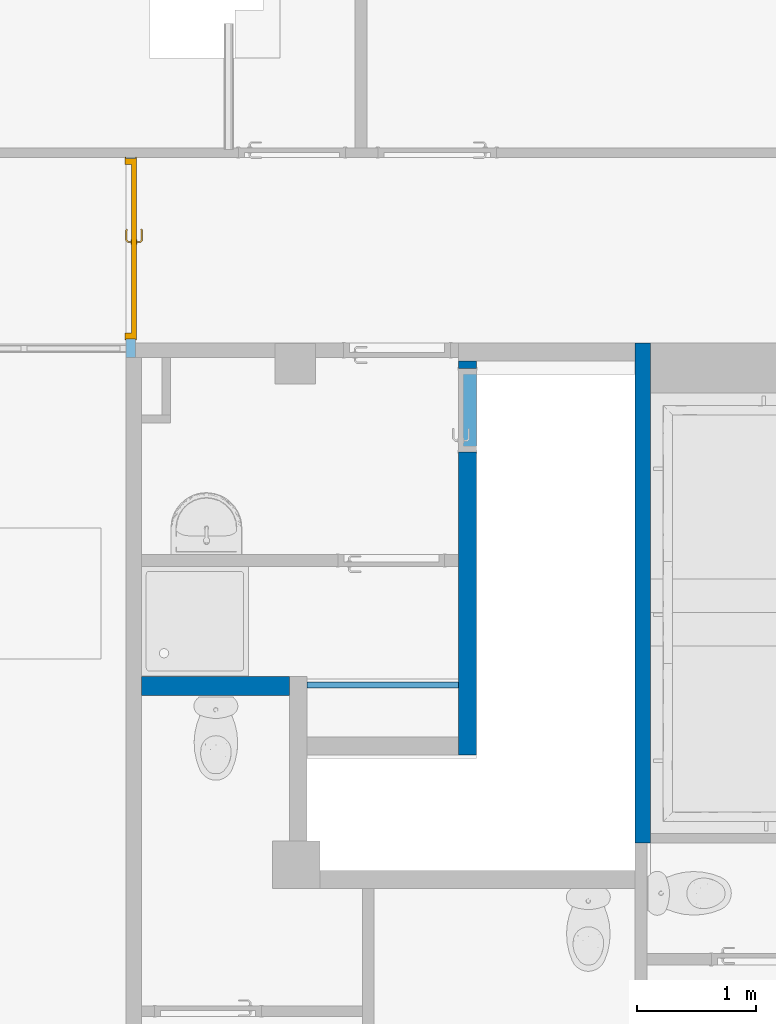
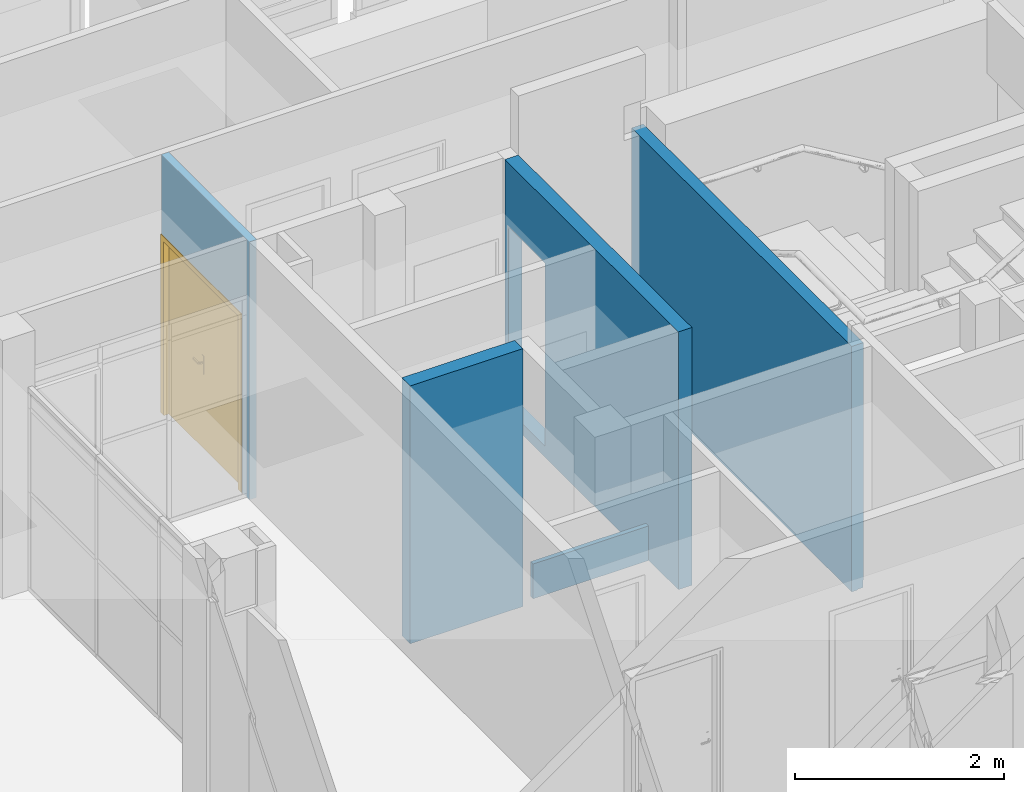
# One storey, part 75 of 97: 4 walls, 1 door, 2 openings, plus 1 element that does not belong to this part.
"""IFC4 building model written with IfcOpenShell, lengths in metres."""

from ifc_helpers import new_model, entity, si_unit, converted_unit, derived_unit, direction, frame, origin, place, context, subcontext, project, spatial, indexed_curve, outline, extrude, polygons, source, transform, mapped, material, material_list, layer, layer_set, constituent, constituent_set, type_object, type_shapes, element, fill, save


model = new_model("IFC4")

# Units and contexts
model_context = context("Model", 3, precision=1e-05, world=origin(), true_north=direction((6.12303176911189e-17, 1.0)))
body_context = subcontext(model_context, "Body", "Model", "MODEL_VIEW")
ifc_project = project(units=[si_unit("LENGTHUNIT", "METRE"), si_unit("AREAUNIT", "SQUARE_METRE"), si_unit("VOLUMEUNIT", "CUBIC_METRE"), converted_unit("PLANEANGLEUNIT", "DEGREE", entity("IfcRatioMeasure", 0.0174532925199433), si_unit("PLANEANGLEUNIT", "RADIAN"), dimensions=[0, 0, 0, 0, 0, 0, 0]), si_unit("MASSUNIT", "GRAM", prefix="KILO"), derived_unit("MASSDENSITYUNIT", [(si_unit("MASSUNIT", "GRAM", prefix="KILO"), 1), (si_unit("LENGTHUNIT", "METRE"), -3)]), derived_unit("MOMENTOFINERTIAUNIT", [(si_unit("LENGTHUNIT", "METRE"), 4)]), si_unit("TIMEUNIT", "SECOND"), si_unit("FREQUENCYUNIT", "HERTZ"), si_unit("THERMODYNAMICTEMPERATUREUNIT", "DEGREE_CELSIUS"), derived_unit("THERMALTRANSMITTANCEUNIT", [(si_unit("MASSUNIT", "GRAM", prefix="KILO"), 1), (si_unit("THERMODYNAMICTEMPERATUREUNIT", "KELVIN"), -1), (si_unit("TIMEUNIT", "SECOND"), -3)]), derived_unit("VOLUMETRICFLOWRATEUNIT", [(si_unit("LENGTHUNIT", "METRE"), 3), (si_unit("TIMEUNIT", "SECOND"), -1)]), si_unit("ELECTRICCURRENTUNIT", "AMPERE"), si_unit("ELECTRICVOLTAGEUNIT", "VOLT"), si_unit("POWERUNIT", "WATT"), si_unit("FORCEUNIT", "NEWTON", prefix="KILO"), si_unit("ILLUMINANCEUNIT", "LUX"), si_unit("LUMINOUSFLUXUNIT", "LUMEN"), si_unit("LUMINOUSINTENSITYUNIT", "CANDELA"), derived_unit("USERDEFINED", [(si_unit("MASSUNIT", "GRAM", prefix="KILO"), -1), (si_unit("LENGTHUNIT", "METRE"), -2), (si_unit("TIMEUNIT", "SECOND"), 3), (si_unit("LUMINOUSFLUXUNIT", "LUMEN"), 1)]), derived_unit("LINEARVELOCITYUNIT", [(si_unit("LENGTHUNIT", "METRE"), 1), (si_unit("TIMEUNIT", "SECOND"), -1)]), si_unit("PRESSUREUNIT", "PASCAL"), derived_unit("USERDEFINED", [(si_unit("LENGTHUNIT", "METRE"), -2), (si_unit("MASSUNIT", "GRAM", prefix="KILO"), 1), (si_unit("TIMEUNIT", "SECOND"), -2)]), derived_unit("LINEARFORCEUNIT", [(si_unit("MASSUNIT", "GRAM", prefix="KILO"), 1), (si_unit("LENGTHUNIT", "METRE"), 1), (si_unit("TIMEUNIT", "SECOND"), -2), (si_unit("LENGTHUNIT", "METRE"), -1)]), derived_unit("PLANARFORCEUNIT", [(si_unit("MASSUNIT", "GRAM", prefix="KILO"), 1), (si_unit("LENGTHUNIT", "METRE"), 1), (si_unit("TIMEUNIT", "SECOND"), -2), (si_unit("LENGTHUNIT", "METRE"), -2)])], contexts=[model_context])

# Site, building, storey
site_placement = place(None, origin())
site = spatial("IfcSite", under=ifc_project, at=site_placement, Name="Default", CompositionType="ELEMENT")
building_placement = place(site_placement, origin())
building = spatial("IfcBuilding", under=site, at=building_placement, Name="HOTEL CONSULAIRE BOULOGNE SUR MER", CompositionType="ELEMENT")
storey_placement = place(building_placement, frame((0.0, 0.0, 3.62152697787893)))
storey = spatial("IfcBuildingStorey", under=building, at=storey_placement, Name="Niveau 1", CompositionType="ELEMENT", Elevation=3.62152697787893)

# Walls
ifc_material_1 = material(Name="Mur par défaut", Category="Divers")
ifc_layer_1 = layer(ifc_material_1, 0.16, Name="Mur par défaut", Category="Divers")
ifc_layer_set_1 = layer_set([ifc_layer_1], Name="Mur de base:Générique - Int.160")
wall_type_1 = type_object("IfcWallType", Name="Mur de base:Générique - Int.160", PredefinedType="NOTDEFINED", material=ifc_layer_set_1)
wall_1_placement = place(storey_placement, frame((-2.53052868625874, -18.3229886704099, 0.0)))
element("IfcWall", 1, at=wall_1_placement, inside=storey, type_object=wall_type_1, material=ifc_layer_set_1, Name="Mur de base:Générique - Int.160", ObjectType="Mur de base:Générique - Int.160", PredefinedType="NOTDEFINED", context=body_context, shape_type="Tessellation", body=[
    polygons([(1.24516374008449, -0.0800000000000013, 3.01021454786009), (5.96853891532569e-16, -0.0800000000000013, 3.01021454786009), (5.54203268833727e-17, -0.0800000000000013, 0.0), (1.24516374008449, -0.0800000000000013, 0.0), (2.67822987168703e-17, 0.0799999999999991, 3.01021454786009), (1.24516374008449, 0.0799999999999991, 3.01021454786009), (1.24516374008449, 0.0799999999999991, 0.0), (2.67822987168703e-17, 0.0799999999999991, 0.0)], [[[2, 3, 4, 1]], [[6, 7, 8, 5]], [[2, 1, 6, 5]], [[5, 8, 3, 2]], [[1, 4, 7, 6]], [[7, 4, 3, 8]]], closed=True),
])
ifc_layer_2 = layer(ifc_material_1, 0.13, Name="Mur par défaut", Category="Divers")
ifc_layer_set_2 = layer_set([ifc_layer_2], Name="Mur de base:Générique - Int. 130 mm")
wall_type_2 = type_object("IfcWallType", Name="Mur de base:Générique - Int. 130 mm", PredefinedType="NOTDEFINED", material=ifc_layer_set_2)
wall_2_placement = place(storey_placement, frame((1.69247131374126, -19.6449143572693, -0.0968216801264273), z_axis=(0.0, 0.0, 1.0), x_axis=(0.0, 1.0, 0.0)))
element("IfcWall", 2, at=wall_2_placement, inside=storey, type_object=wall_type_2, material=ifc_layer_set_2, Name="Mur de base:Générique - Int. 130 mm", ObjectType="Mur de base:Générique - Int. 130 mm", PredefinedType="NOTDEFINED", context=body_context, shape_type="Tessellation", body=[
    polygons([(4.20967231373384, -0.0650000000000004, 0.0968216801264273), (3.94467231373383, -0.0650000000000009, 0.0968216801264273), (3.94467231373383, 0.0649999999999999, 0.0968216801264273), (4.05967231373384, 0.0650000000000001, 0.0968216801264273), (4.20967231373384, 0.0650000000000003, 0.0968216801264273), (4.20967231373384, -0.0649999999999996, 2.86503622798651), (4.15203615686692, -0.0649999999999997, 2.86503622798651), (3.78967231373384, -0.0649999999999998, 2.86503622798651), (0.0799999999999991, -0.0649999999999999, 2.86503622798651), (0.0, -0.0649999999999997, 2.86503622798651), (0.0, -0.0649999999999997, 0.0968216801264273), (0.00999999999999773, -0.0649999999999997, 0.0968216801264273), (0.00999999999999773, -0.0649999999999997, 5.41433564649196e-16), (3.94467231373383, -0.0649999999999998, 5.41433564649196e-16), (0.0, 0.0650000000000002, 2.86503622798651), (0.0799999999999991, 0.0650000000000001, 2.86503622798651), (4.05967231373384, 0.0650000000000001, 2.86503622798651), (4.20967231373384, 0.0650000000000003, 2.86503622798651), (3.94467231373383, 0.0650000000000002, 5.41433564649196e-16), (0.0, 0.0650000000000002, 5.41433564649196e-16), (0.0, 0.0650000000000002, 0.0618216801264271), (4.20967231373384, -3.41926328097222e-16, 2.86503622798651), (0.00999999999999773, -2.31463596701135e-15, 0.0968216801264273), (4.33146851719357e-15, -0.0349999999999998, 0.0968216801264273), (0.0, -2.33029170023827e-15, 0.0968216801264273), (0.0, -2.33029170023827e-15, 0.0618216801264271), (0.0, -2.33029170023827e-15, 5.41433564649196e-16), (0.00999999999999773, -2.31463596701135e-15, 5.41433564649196e-16)], [[[4, 5, 1, 2, 3]], [[23, 12, 11, 24, 25]], [[20, 19, 14, 13, 28, 27]], [[10, 11, 12, 13, 14, 2, 1, 6, 7, 8, 9]], [[26, 27, 28, 23, 25]], [[5, 4, 3, 19, 20, 21, 15, 16, 17, 18]], [[8, 7, 6, 22, 18, 17, 16, 15, 10, 9]], [[3, 2, 14, 19]], [[6, 1, 5, 18, 22]], [[25, 24, 11, 10, 15, 21, 20, 27, 26]], [[23, 28, 13, 12]]], closed=True),
])

# Wall, opening
ifc_layer_3 = layer(ifc_material_1, 0.15, Name="Mur par défaut", Category="Divers")
ifc_layer_set_3 = layer_set([ifc_layer_3], Name="Mur de base:Générique - Int. 150 mm")
wall_type_3 = type_object("IfcWallType", Name="Mur de base:Générique - Int. 150 mm", PredefinedType="NOTDEFINED", material=ifc_layer_set_3)
wall_3_placement = place(storey_placement, frame((0.216635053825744, -18.9046212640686, 0.0), z_axis=(0.0, 0.0, 1.0), x_axis=(0.0, 1.0, 0.0)))
wall_3 = element("IfcWall", 3, at=wall_3_placement, inside=storey, type_object=wall_type_3, material=ifc_layer_set_3, Name="Mur de base:Générique - Int. 150 mm", ObjectType="Mur de base:Générique - Int. 150 mm", PredefinedType="NOTDEFINED", context=body_context, shape_type="Tessellation", body=[
    polygons([(3.31937922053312, -0.075, 3.01021454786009), (0.0, -0.075, 3.01021454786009), (0.0, -0.075, 0.0), (3.2043792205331, -0.075, 0.0), (3.31937922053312, -0.075, 0.0), (3.2533792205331, -0.075, 2.26500000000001), (3.2533792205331, -0.075, 0.13), (2.5533792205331, -0.075, 0.13), (2.5533792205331, -0.075, 2.26500000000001), (0.0, 0.075, 3.01021454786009), (0.150000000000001, 0.075, 3.01021454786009), (1.58683564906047, 0.075, 3.01021454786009), (1.68683564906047, 0.075, 3.01021454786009), (3.31937922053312, 0.075, 3.01021454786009), (3.31937922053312, 0.075, 0.0), (1.68683564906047, 0.075, 0.0), (1.58683564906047, 0.075, 0.0), (0.150000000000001, 0.075, 0.0), (0.0, 0.075, 0.0), (3.2533792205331, 0.075, 0.13), (3.2533792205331, 0.075, 2.26500000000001), (2.5533792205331, 0.075, 2.26500000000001), (2.5533792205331, 0.075, 0.13)], [[[3, 4, 5, 1, 2], [9, 6, 7, 8]], [[15, 16, 17, 18, 19, 10, 11, 12, 13, 14], [20, 21, 22, 23]], [[2, 1, 14, 13, 12, 11, 10]], [[20, 23, 8, 7]], [[10, 19, 3, 2]], [[21, 20, 7, 6]], [[22, 21, 6, 9]], [[18, 17, 16, 15, 5, 4, 3, 19]], [[23, 22, 9, 8]], [[5, 15, 14, 1]]], closed=True),
])
opening_1_placement = place(wall_3_placement, frame((2.5533792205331, -0.0749999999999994, 0.130000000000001)))
element("IfcOpeningElement", 4, at=opening_1_placement, cuts=wall_3, Name="Int. Simple:PP (0.63m x 2.10m):1", ObjectType="Opening", PredefinedType="OPENING", context=body_context, shape_type="SweptSolid", body=[
    extrude(outline(indexed_curve([(0.0, 0.699999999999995), (0.0, 0.0), (2.13500000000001, 0.0), (2.13500000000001, 0.699999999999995), (0.0, 0.699999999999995)], self_intersect=False)), frame((0.0, 0.0, 0.0), z_axis=(0.0, 1.0, 0.0), x_axis=(0.0, 0.0, 1.0)), (0.0, 0.0, 1.0), 0.15),
])

# Wall, opening, door
ifc_layer_4 = layer(ifc_material_1, 0.08, Name="Mur par défaut", Category="Divers")
ifc_layer_set_4 = layer_set([ifc_layer_4], Name="Mur de base:Générique - Int. 80")
wall_type_4 = type_object("IfcWallType", Name="Mur de base:Générique - Int. 80", PredefinedType="NOTDEFINED", material=ifc_layer_set_4)
wall_4_placement = place(storey_placement, frame((-2.62052868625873, -13.8709141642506, 0.0), z_axis=(0.0, 0.0, 1.0), x_axis=(0.0, -1.0, 0.0)))
wall_4 = element("IfcWall", 5, at=wall_4_placement, inside=storey, type_object=wall_type_4, material=ifc_layer_set_4, Name="Mur de base:Générique - Int. 80", ObjectType="Mur de base:Générique - Int. 80", PredefinedType="NOTDEFINED", context=body_context, shape_type="Tessellation", body=[
    polygons([(0.0083278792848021, -0.0400000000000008, 0.0), (0.0, -0.0400000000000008, 0.0), (0.0, 0.0400000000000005, 0.0), (0.0083278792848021, 0.0400000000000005, 0.0), (1.6843278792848, -0.0400000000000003, 3.01021454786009), (1.64194489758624, -0.0400000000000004, 3.01021454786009), (1.57194489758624, -0.0400000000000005, 3.01021454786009), (0.0, -0.0400000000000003, 3.01021454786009), (0.0083278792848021, -0.0400000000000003, 2.075), (1.5283278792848, -0.0400000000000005, 2.075), (1.5283278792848, -0.0400000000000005, 0.0), (1.6843278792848, -0.0400000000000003, 0.0), (0.0, 0.04, 3.01021454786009), (1.5643278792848, 0.0399999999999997, 3.01021454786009), (1.6843278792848, 0.0399999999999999, 3.01021454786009), (1.6843278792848, 0.0399999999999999, 0.0), (1.5643278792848, 0.0399999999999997, 0.0), (1.5283278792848, 0.0399999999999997, 0.0), (1.5283278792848, 0.0399999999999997, 2.075), (0.0083278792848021, 0.04, 2.075)], [[[3, 4, 1, 2]], [[10, 9, 20, 19]], [[17, 16, 12, 11, 18]], [[2, 1, 9, 10, 11, 12, 5, 6, 7, 8]], [[15, 16, 17, 18, 19, 20, 4, 3, 13, 14]], [[6, 5, 15, 14, 13, 8, 7]], [[13, 3, 2, 8]], [[11, 10, 19, 18]], [[9, 1, 4, 20]], [[5, 12, 16, 15]]], closed=True),
])
opening_2_placement = place(wall_4_placement, frame((0.00832787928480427, -0.039999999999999, 0.0)))
opening_2 = element("IfcOpeningElement", 6, at=opening_2_placement, cuts=wall_4, Name="Double (R):1.43m x 2.04m 2:1", ObjectType="Opening", PredefinedType="OPENING", context=body_context, shape_type="SweptSolid", body=[
    extrude(outline(indexed_curve([(0.0, 0.0), (2.075, 0.0), (2.075, 1.52), (0.0, 1.52), (0.0, 0.0)], self_intersect=False)), frame((0.0, 0.0, 0.0), z_axis=(0.0, 1.0, 0.0), x_axis=(0.0, 0.0, 1.0)), (0.0, 0.0, 1.0), 0.08),
])
ifc_material_2 = material(Name="Porte - Poignée", Category="Métal")
ifc_constituent_1 = constituent(ifc_material_2, Name="Porte - Poignée", Category="Matériaux")
ifc_material_3 = material(Name="Porte - Cadre", Category="Peinture")
ifc_constituent_2 = constituent(ifc_material_3, Name="Porte - Cadre", Category="Matériaux")
ifc_material_4 = material(Name="Porte - Panneau", Category="Bois")
ifc_constituent_3 = constituent(ifc_material_4, Name="Porte - Panneau", Category="Matériaux")
ifc_constituent_set = constituent_set(constituents=[ifc_constituent_1, ifc_constituent_2, ifc_constituent_3], Name="MaterialConstituentSet")
ifc_material_list = material_list([ifc_material_2, ifc_material_3, ifc_material_4])
door_type = type_object("IfcDoorType", Name="Double (R):1.43m x 2.04m 2", OperationType="DOUBLE_DOOR_SINGLE_SWING", PredefinedType="DOOR", material=ifc_material_list)
shared_shape = source(origin(), body_context, "Body", "Tessellation", [
    polygons([(0.821000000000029, 0.0369999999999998, 0.993000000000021), (0.821000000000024, 0.0369999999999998, 1.00699999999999), (0.817025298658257, 0.0369999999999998, 1.00778044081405), (0.812974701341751, 0.0369999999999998, 1.00778044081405), (0.808999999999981, 0.0369999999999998, 1.00699999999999), (0.808999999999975, 0.0369999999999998, 0.992999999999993), (0.812974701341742, 0.0369999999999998, 0.992219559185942), (0.817025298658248, 0.0369999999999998, 0.992219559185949), (0.821000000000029, 0.0594852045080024, 0.993000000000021), (0.82100000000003, 0.0594852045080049, 1.00699999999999), (0.817025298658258, 0.061131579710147, 1.00778044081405), (0.812974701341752, 0.062809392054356, 1.00778044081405), (0.808999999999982, 0.0644557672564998, 1.00699999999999), (0.808999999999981, 0.0644557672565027, 0.992999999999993), (0.812974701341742, 0.0628093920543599, 0.992219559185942), (0.817025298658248, 0.0611315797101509, 0.992219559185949), (0.832485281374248, 0.0709704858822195, 0.993000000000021), (0.832485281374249, 0.0709704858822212, 1.00699999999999), (0.830838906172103, 0.0749451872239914, 1.00778044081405), (0.829161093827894, 0.0789957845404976, 1.00778044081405), (0.827514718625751, 0.0829704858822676, 1.00699999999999), (0.827514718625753, 0.0829704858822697, 0.992999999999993), (0.82916109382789, 0.078995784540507, 0.992219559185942), (0.830838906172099, 0.0749451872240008, 0.992219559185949), (0.912560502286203, 0.0709704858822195, 0.993000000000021), (0.912560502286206, 0.0709704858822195, 1.00699999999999), (0.914206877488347, 0.0749451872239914, 1.00778044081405), (0.915884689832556, 0.0789957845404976, 1.00778044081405), (0.917531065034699, 0.0829704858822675, 1.00699999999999), (0.87760057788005, 0.0829704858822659, 1.00699999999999), (0.872522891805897, 0.0771249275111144, 1.00787811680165), (0.872522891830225, 0.0709704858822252, 1.00699999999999), (0.917531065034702, 0.0829704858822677, 0.992999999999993), (0.91588468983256, 0.078995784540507, 0.992219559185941), (0.914206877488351, 0.0749451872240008, 0.992219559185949), (0.867445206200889, 0.0829704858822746, 0.992999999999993), (0.872522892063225, 0.0771249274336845, 0.992121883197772), (0.872522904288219, 0.0709704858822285, 0.993000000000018), (0.917874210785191, 0.0656567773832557, 0.993000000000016), (0.920684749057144, 0.0684673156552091, 0.992219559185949), (0.923548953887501, 0.0713315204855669, 0.992219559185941), (0.926359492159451, 0.0741420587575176, 0.992999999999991), (0.926359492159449, 0.074142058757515, 1.00699999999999), (0.923548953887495, 0.0713315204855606, 1.00778044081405), (0.920684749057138, 0.0684673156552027, 1.00778044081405), (0.91787421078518, 0.065656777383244, 1.00699999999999)], [[[4, 5, 6, 7, 8, 1, 2, 3]], [[18, 17, 38, 25, 26, 32]], [[2, 1, 9, 10]], [[10, 11, 3, 2]], [[11, 19, 20, 12, 4, 3]], [[45, 44, 28, 27]], [[12, 13, 5, 4]], [[6, 5, 13, 14]], [[14, 15, 7, 6]], [[15, 23, 24, 16, 8, 7]], [[41, 40, 35, 34]], [[16, 9, 1, 8]], [[10, 9, 17, 18]], [[39, 40, 41, 42, 43, 44, 45, 46]], [[18, 19, 11, 10]], [[20, 21, 13, 12]], [[14, 13, 21, 22]], [[22, 23, 15, 14]], [[24, 17, 9, 16]], [[19, 32, 31]], [[28, 29, 30]], [[21, 20, 30]], [[30, 20, 31]], [[31, 32, 27]], [[27, 28, 31]], [[32, 19, 18]], [[26, 27, 32]], [[19, 31, 20]], [[30, 31, 28]], [[22, 21, 30, 29, 33, 36]], [[36, 37, 23]], [[37, 36, 34]], [[23, 22, 36]], [[33, 34, 36]], [[37, 38, 24]], [[24, 23, 37]], [[35, 38, 37]], [[17, 24, 38]], [[38, 35, 25]], [[35, 37, 34]], [[26, 25, 39, 46]], [[46, 45, 27, 26]], [[44, 43, 29, 28]], [[33, 29, 43, 42]], [[42, 41, 34, 33]], [[40, 39, 25, 35]]], closed=True),
    polygons([(0.808999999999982, -0.0130000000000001, 1.00699999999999), (0.812974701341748, -0.0130000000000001, 1.00778044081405), (0.817025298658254, -0.0130000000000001, 1.00778044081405), (0.821000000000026, -0.0130000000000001, 1.00699999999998), (0.82100000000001, -0.0130000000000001, 0.993000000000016), (0.817025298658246, -0.0130000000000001, 0.992219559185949), (0.812974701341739, -0.0130000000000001, 0.992219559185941), (0.808999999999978, -0.0130000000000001, 0.992999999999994), (0.808999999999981, -0.0406509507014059, 1.00699999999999), (0.812974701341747, -0.0390045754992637, 1.00778044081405), (0.817025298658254, -0.0373267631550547, 1.00778044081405), (0.821000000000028, -0.0356803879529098, 1.00699999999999), (0.821000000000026, -0.0356803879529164, 0.993000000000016), (0.817025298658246, -0.037326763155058, 0.992219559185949), (0.812974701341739, -0.039004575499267, 0.992219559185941), (0.808999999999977, -0.0406509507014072, 0.992999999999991), (0.827377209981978, -0.0590281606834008, 1.00699999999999), (0.82902358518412, -0.0550534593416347, 1.00778044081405), (0.830701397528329, -0.0510028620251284, 1.00778044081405), (0.832347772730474, -0.0470281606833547, 1.00699999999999), (0.832347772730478, -0.0470281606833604, 0.993000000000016), (0.830701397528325, -0.0510028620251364, 0.992219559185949), (0.829023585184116, -0.0550534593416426, 0.992219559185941), (0.827377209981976, -0.0590281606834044, 0.992999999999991), (0.917503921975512, -0.0590281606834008, 1.00699999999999), (0.91585754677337, -0.0550534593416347, 1.00778044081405), (0.914179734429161, -0.0510028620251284, 1.00778044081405), (0.912533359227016, -0.0470281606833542, 1.00699999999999), (0.867307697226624, -0.0590281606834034, 1.00699999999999), (0.872440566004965, -0.0531828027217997, 1.00787811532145), (0.872440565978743, -0.0470281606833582, 1.00699999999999), (0.912533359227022, -0.0470281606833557, 0.993000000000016), (0.914179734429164, -0.0510028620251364, 0.992219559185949), (0.915857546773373, -0.0550534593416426, 0.992219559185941), (0.917503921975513, -0.0590281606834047, 0.992999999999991), (0.877573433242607, -0.0590281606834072, 0.992999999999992), (0.872440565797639, -0.0531828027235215, 0.992121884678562), (0.872440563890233, -0.0470281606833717, 0.993000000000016), (0.926332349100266, -0.0501997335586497, 1.00699999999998), (0.926332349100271, -0.0501997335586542, 0.992999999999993), (0.923521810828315, -0.0473891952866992, 0.992219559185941), (0.920657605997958, -0.0445249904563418, 0.992219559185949), (0.917847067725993, -0.0417144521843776, 0.993000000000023), (0.917847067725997, -0.041714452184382, 1.00699999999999), (0.920657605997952, -0.044524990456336, 1.00778044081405), (0.92352181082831, -0.0473891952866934, 1.00778044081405)], [[[2, 3, 4, 5, 6, 7, 8, 1]], [[21, 20, 31, 28, 32, 38]], [[9, 10, 2, 1]], [[10, 18, 19, 11, 3, 2]], [[46, 45, 27, 26]], [[11, 12, 4, 3]], [[5, 4, 12, 13]], [[13, 14, 6, 5]], [[14, 22, 23, 15, 7, 6]], [[42, 41, 34, 33]], [[15, 16, 8, 7]], [[1, 8, 16, 9]], [[17, 18, 10, 9]], [[19, 20, 12, 11]], [[13, 12, 20, 21]], [[44, 45, 46, 39, 40, 41, 42, 43]], [[21, 22, 14, 13]], [[23, 24, 16, 15]], [[9, 16, 24, 17]], [[29, 30, 18]], [[30, 29, 26]], [[18, 17, 29]], [[25, 26, 29]], [[30, 31, 19]], [[19, 18, 30]], [[27, 31, 30]], [[20, 19, 31]], [[31, 27, 28]], [[27, 30, 26]], [[22, 38, 37]], [[34, 35, 36]], [[24, 23, 36]], [[36, 23, 37]], [[37, 38, 33]], [[33, 34, 37]], [[38, 22, 21]], [[32, 33, 38]], [[22, 37, 23]], [[36, 37, 34]], [[17, 24, 36, 35, 25, 29]], [[39, 46, 26, 25]], [[45, 44, 28, 27]], [[32, 28, 44, 43]], [[43, 42, 33, 32]], [[41, 40, 35, 34]], [[25, 35, 40, 39]]], closed=True),
    polygons([(0.834999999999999, 0.0319999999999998, 1.08), (0.8253527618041, 0.0319999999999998, 1.08399601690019), (0.814999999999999, 0.0319999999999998, 1.08535898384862), (0.804647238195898, 0.0319999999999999, 1.08399601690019), (0.794999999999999, 0.0319999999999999, 1.08), (0.794999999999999, 0.0319999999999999, 0.870000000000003), (0.804647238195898, 0.0319999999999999, 0.866003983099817), (0.814999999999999, 0.0319999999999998, 0.864641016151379), (0.825352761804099, 0.0319999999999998, 0.866003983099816), (0.834999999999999, 0.0319999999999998, 0.870000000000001), (0.834999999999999, 0.0369999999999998, 1.08), (0.834999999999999, 0.0369999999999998, 0.870000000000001), (0.825352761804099, 0.0369999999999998, 0.866003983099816), (0.814999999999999, 0.0369999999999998, 0.864641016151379), (0.804647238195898, 0.0369999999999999, 0.866003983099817), (0.794999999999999, 0.0369999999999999, 0.870000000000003), (0.794999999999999, 0.0369999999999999, 1.08), (0.804647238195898, 0.0369999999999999, 1.08399601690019), (0.814999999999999, 0.0369999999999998, 1.08535898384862), (0.8253527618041, 0.0369999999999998, 1.08399601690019)], [[[9, 10, 1, 2, 3, 4, 5, 6, 7, 8]], [[20, 11, 12, 13, 14, 15, 16, 17, 18, 19]], [[11, 20, 2, 1]], [[2, 20, 19, 3]], [[19, 18, 4, 3]], [[18, 17, 5, 4]], [[6, 5, 17, 16]], [[16, 15, 7, 6]], [[7, 15, 14, 8]], [[14, 13, 9, 8]], [[13, 12, 10, 9]], [[1, 10, 12, 11]]], closed=True),
    polygons([(0.794999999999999, -0.0130000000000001, 0.870000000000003), (0.804647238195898, -0.0130000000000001, 0.866003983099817), (0.814999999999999, -0.0130000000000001, 0.864641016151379), (0.825352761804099, -0.0130000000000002, 0.866003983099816), (0.834999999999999, -0.0130000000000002, 0.870000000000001), (0.834999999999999, -0.0130000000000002, 1.08), (0.8253527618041, -0.0130000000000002, 1.08399601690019), (0.814999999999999, -0.0130000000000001, 1.08535898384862), (0.804647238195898, -0.0130000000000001, 1.08399601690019), (0.794999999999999, -0.0130000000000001, 1.08), (0.794999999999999, -0.00800000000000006, 0.870000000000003), (0.794999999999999, -0.00800000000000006, 1.08), (0.804647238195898, -0.00800000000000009, 1.08399601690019), (0.814999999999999, -0.00800000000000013, 1.08535898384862), (0.8253527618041, -0.00800000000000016, 1.08399601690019), (0.834999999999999, -0.00800000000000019, 1.08), (0.834999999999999, -0.00800000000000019, 0.870000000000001), (0.825352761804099, -0.00800000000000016, 0.866003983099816), (0.814999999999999, -0.00800000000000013, 0.864641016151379), (0.804647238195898, -0.00800000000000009, 0.866003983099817)], [[[4, 5, 6, 7, 8, 9, 10, 1, 2, 3]], [[15, 16, 17, 18, 19, 20, 11, 12, 13, 14]], [[11, 20, 2, 1]], [[2, 20, 19, 3]], [[19, 18, 4, 3]], [[18, 17, 5, 4]], [[6, 5, 17, 16]], [[16, 15, 7, 6]], [[7, 15, 14, 8]], [[14, 13, 9, 8]], [[13, 12, 10, 9]], [[1, 10, 12, 11]]], closed=True),
    polygons([(0.0, -8.45989944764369e-18, 0.0), (0.0, 0.0800000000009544, 0.0), (-0.01, 0.0800000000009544, 0.0), (-0.01, 0.0880000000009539, 0.0), (0.0499999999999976, 0.0880000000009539, 0.0), (0.0499999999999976, 0.032, 0.0), (0.0349999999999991, 0.032, 0.0), (0.0349999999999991, -0.00799999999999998, 0.0), (-0.01, -0.00799999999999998, 0.0), (-0.01, -8.45989944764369e-18, 0.0), (0.0, -8.45989944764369e-18, 2.075), (0.0, 0.0800000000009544, 2.075), (1.52, 0.0800000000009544, 2.075), (1.52, 0.0800000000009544, 4.03399441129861e-24), (1.53, 0.0800000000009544, -4.03399441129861e-24), (1.53, 0.0800000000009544, 2.085), (-0.00999999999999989, 0.0800000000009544, 2.085), (-0.00999999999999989, 0.0880000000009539, 2.085), (1.53, 0.0880000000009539, 2.085), (1.53, 0.0880000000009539, -5.03040063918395e-24), (1.47, 0.0880000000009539, 3.70508351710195e-24), (1.47, 0.0880000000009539, 2.025), (0.0499999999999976, 0.0880000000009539, 2.025), (0.0499999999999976, 0.032, 2.025), (1.47, 0.032, 2.025), (1.47, 0.032, -4.03399441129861e-24), (1.485, 0.032, 4.03399441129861e-24), (1.485, 0.032, 2.04), (0.0349999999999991, 0.032, 2.04), (0.0349999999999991, -0.00799999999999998, 2.04), (1.485, -0.00799999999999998, 2.04), (1.485, -0.00799999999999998, -4.03399441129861e-24), (1.53, -0.00799999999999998, -4.03399441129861e-24), (1.53, -0.00799999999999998, 2.085), (-0.00999999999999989, -0.00799999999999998, 2.085), (-0.00999999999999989, -8.45989944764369e-18, 2.085), (1.53, -8.45989944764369e-18, 2.085), (1.53, -8.45989944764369e-18, -5.03040063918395e-24), (1.52, -8.45989944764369e-18, -2.90215416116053e-24), (1.52, -8.45989944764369e-18, 2.075)], [[[2, 3, 4, 5, 6, 7, 8, 9, 10, 1]], [[20, 15, 14, 39, 38, 33, 32, 27, 26, 21]], [[24, 23, 22, 25]], [[30, 29, 28, 31]], [[2, 1, 11, 12]], [[4, 3, 17, 18]], [[10, 9, 35, 36]], [[25, 22, 21, 26]], [[31, 28, 27, 32]], [[14, 15, 16, 17, 3, 2, 12, 13]], [[26, 27, 28, 29, 7, 6, 24, 25]], [[32, 33, 34, 35, 9, 8, 30, 31]], [[5, 4, 18, 19, 20, 21, 22, 23]], [[1, 10, 36, 37, 38, 39, 40, 11]], [[6, 5, 23, 24]], [[8, 7, 29, 30]], [[13, 40, 39, 14]], [[19, 16, 15, 20]], [[37, 34, 33, 38]], [[12, 11, 40, 13]], [[18, 17, 16, 19]], [[36, 35, 34, 37]]], closed=True),
    polygons([(1.485, -0.00799999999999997, 0.0), (1.485, -0.00799999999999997, 2.04), (0.759999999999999, -0.00799999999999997, 2.04), (0.759999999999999, -0.00799999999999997, 0.0), (1.485, 0.032, 0.0), (0.759999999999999, 0.032, 0.0), (0.759999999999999, 0.032, 2.04), (1.485, 0.032, 2.04)], [[[4, 1, 2, 3]], [[7, 8, 5, 6]], [[2, 1, 5, 8]], [[3, 2, 8, 7]], [[4, 3, 7, 6]], [[1, 4, 6, 5]]], closed=True),
    polygons([(0.0349999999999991, -0.00799999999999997, 2.04), (0.0349999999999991, -0.00799999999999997, 0.0), (0.759999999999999, -0.00799999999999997, 0.0), (0.759999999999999, -0.00799999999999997, 2.04), (0.0349999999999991, 0.032, 2.04), (0.759999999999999, 0.032, 2.04), (0.759999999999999, 0.032, 0.0), (0.0349999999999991, 0.032, 0.0)], [[[4, 1, 2, 3]], [[7, 8, 5, 6]], [[2, 1, 5, 8]], [[3, 2, 8, 7]], [[4, 3, 7, 6]], [[1, 4, 6, 5]]], closed=True),
])
type_shapes(door_type, [shared_shape])
door_placement = place(opening_2_placement, frame((1.52, 0.0799999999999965, 0.0), z_axis=(0.0, 0.0, 1.0), x_axis=(-1.0, 0.0, 0.0)))
door = element("IfcDoor", 7, at=door_placement, inside=storey, type_object=door_type, material=ifc_constituent_set, Name="Double (R):1.43m x 2.04m 2", ObjectType="Double (R):1.43m x 2.04m 2", OperationType="DOUBLE_DOOR_SINGLE_SWING", OverallHeight=2.075, OverallWidth=1.52, PredefinedType="DOOR", context=body_context, shape_type="MappedRepresentation", body=[
    mapped(shared_shape, transform((0.0, 0.0, 0.0), scale=1.0)),
])
fill(opening_2, door)

# Wall
ifc_layer_5 = layer(ifc_material_1, 0.05, Name="Mur par défaut", Category="Divers")
ifc_layer_set_5 = layer_set([ifc_layer_5], Name="Mur de base:Générique - Int. 50")
wall_type_5 = type_object("IfcWallType", Name="Mur de base:Générique - Int. 50", PredefinedType="NOTDEFINED", material=ifc_layer_set_5)
wall_5_placement = place(storey_placement, frame((-1.13536494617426, -18.315049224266, 0.0)))
element("IfcWall", 8, at=wall_5_placement, inside=storey, type_object=wall_type_5, material=ifc_layer_set_5, Name="Mur de base:Générique - Int. 50", ObjectType="Mur de base:Générique - Int. 50", PredefinedType="NOTDEFINED", context=body_context, shape_type="Tessellation", body=[
    polygons([(1.27555862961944, -0.0249999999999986, 0.405137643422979), (1.48581152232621e-16, -0.0249999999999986, 0.405137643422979), (1.48581152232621e-16, -0.0249999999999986, 0.0), (1.27555862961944, -0.0249999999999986, 0.0), (1.14152423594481e-16, 0.0250000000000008, 0.405137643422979), (1.27555862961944, 0.0250000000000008, 0.405137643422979), (1.27555862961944, 0.0250000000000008, 0.0), (1.14152423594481e-16, 0.0250000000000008, 0.0)], [[[2, 3, 4, 1]], [[6, 7, 8, 5]], [[1, 4, 7, 6]], [[2, 1, 6, 5]], [[8, 3, 2, 5]], [[7, 4, 3, 8]]], closed=True),
])

save(model, "model.ifc")
